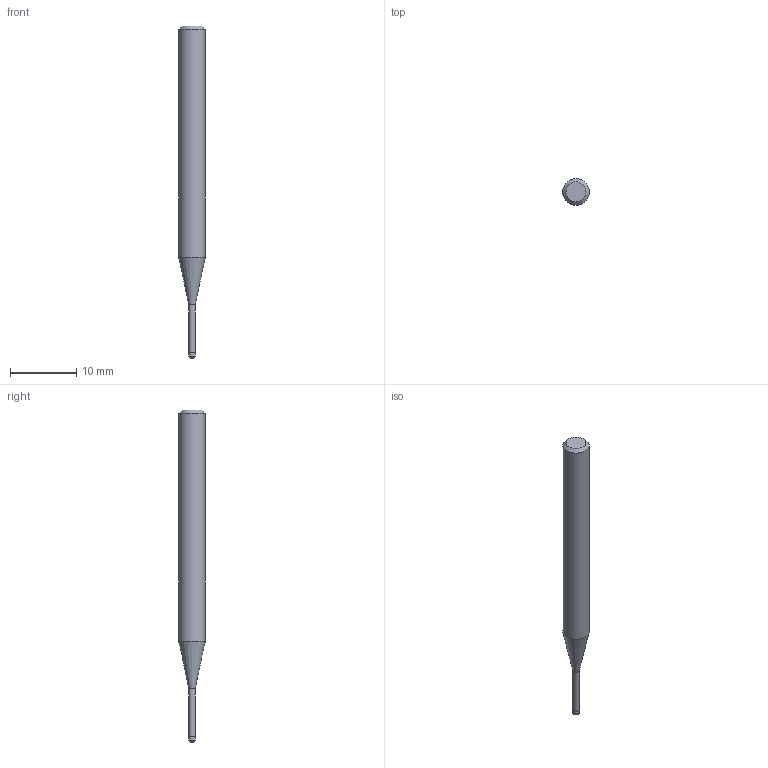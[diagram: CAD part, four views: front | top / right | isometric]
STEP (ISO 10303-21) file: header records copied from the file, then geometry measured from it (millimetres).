
FILE_DESCRIPTION((''),'2;1');
FILE_NAME('C:\Users\nsx150\AppData\Local\Temp\Mastercam 2021\17T8Q8S9EB\TEMP.step','2021-04-21T14:34:27',(''),(''),'STEP Write','Mastercam 2021 ... CNC Software, Inc.','');
FILE_SCHEMA(('AUTOMOTIVE_DESIGN'));
Length unit declared in the file: millimetre
Products named in the file (1): None
Bounding box: 4 x 4 x 50 mm (x, y, z)
Volume: 480.8 mm3; surface area: 529.1 mm2
Topology: 2 solids, 2 shells, 10 faces, 14 edges, 8 vertices
Faces by surface type: plane 4, cylinder 3, cone 2, torus 1
Full cylindrical faces by diameter (mm): 0.95 x1, 1 x1, 4 x1
Entity records: 232 total; most frequent: DIRECTION 40, CARTESIAN_POINT 28, AXIS2_PLACEMENT_3D 20, ORIENTED_EDGE 16, EDGE_LOOP 16, STYLED_ITEM 13, ADVANCED_FACE 10, FACE_BOUND 10
